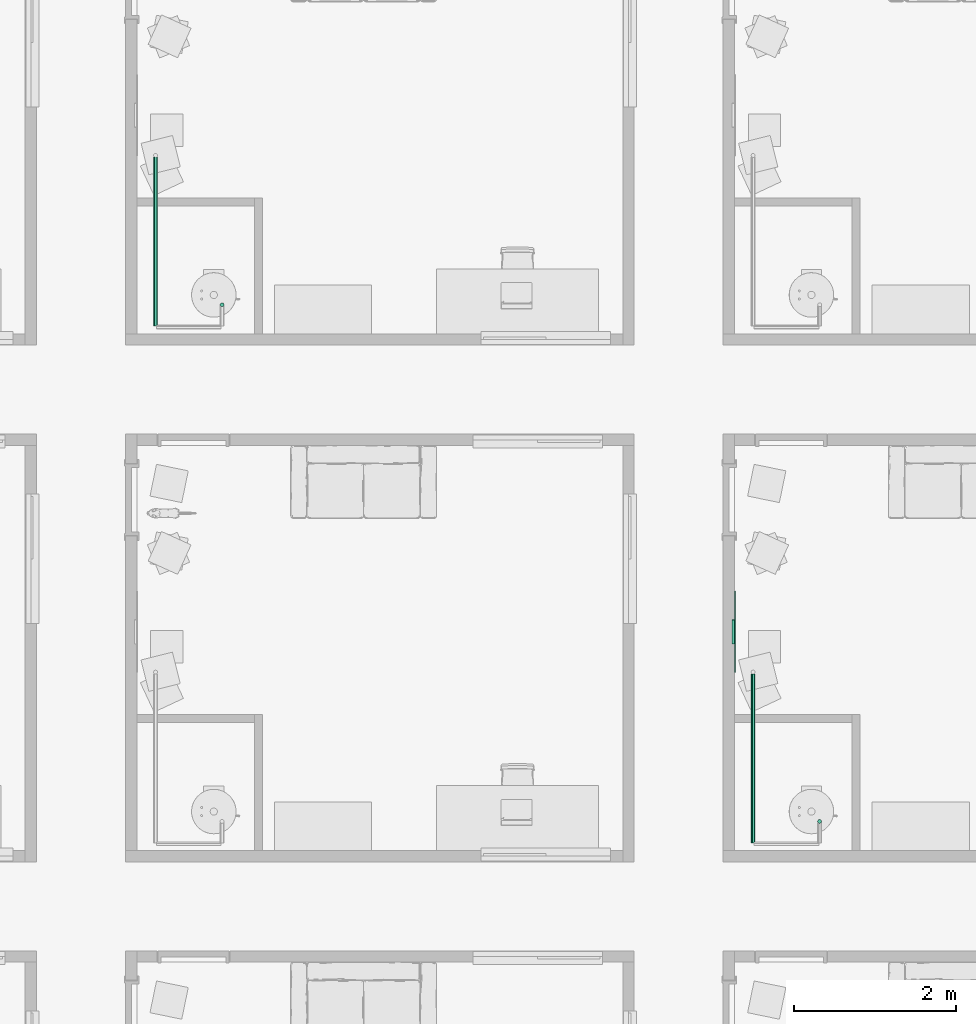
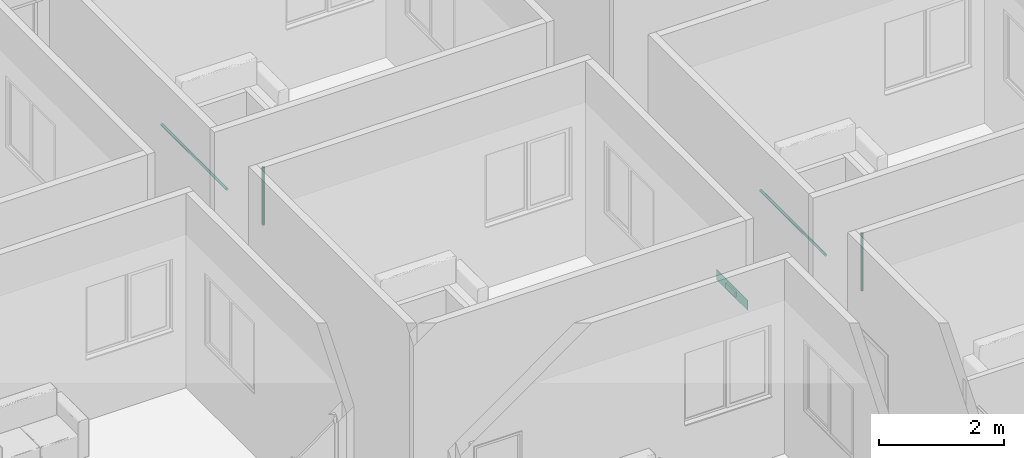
# One storey, part 38 of 71: 4 pipe segments, 1 air terminal.
"""IFC4 building model written with IfcOpenShell, lengths in centimetres."""

from ifc_helpers import new_model, entity, si_unit, converted_unit, derived_unit, direction, frame, origin, place, context, subcontext, project, spatial, arc, indexed_curve, outline, extrude, source, transform, mapped, material, constituent, constituent_set, type_object, type_shapes, element, save


model = new_model("IFC4")

# Units and contexts
model_context = context("Model", 3, precision=0.001, world=origin(), true_north=direction((6.123233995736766e-17, 1.0)))
body_context = subcontext(model_context, "Body", "Model", "MODEL_VIEW")
ifc_project = project(units=[si_unit("LENGTHUNIT", "METRE", prefix="CENTI"), si_unit("AREAUNIT", "SQUARE_METRE"), si_unit("VOLUMEUNIT", "CUBIC_METRE"), derived_unit("THERMALTRANSMITTANCEUNIT", [(si_unit("MASSUNIT", "GRAM", prefix="KILO"), 1), (si_unit("THERMODYNAMICTEMPERATUREUNIT", "KELVIN"), -1), (si_unit("TIMEUNIT", "SECOND"), -3)]), converted_unit("PLANEANGLEUNIT", "DEGREE", entity("IfcPlaneAngleMeasure", 0.017453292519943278), si_unit("PLANEANGLEUNIT", "RADIAN"), dimensions=[0, 0, 0, 0, 0, 0, 0]), derived_unit("MASSDENSITYUNIT", [(si_unit("MASSUNIT", "GRAM", prefix="KILO"), 1), (si_unit("LENGTHUNIT", "METRE"), -3)]), derived_unit("VAPORPERMEABILITYUNIT", [(si_unit("LENGTHUNIT", "METRE"), -1), (si_unit("TIMEUNIT", "SECOND"), 1)]), derived_unit("USERDEFINED", [(si_unit("MASSUNIT", "GRAM", prefix="KILO"), 1), (si_unit("TIMEUNIT", "SECOND"), -3), (si_unit("LENGTHUNIT", "METRE"), 3), (si_unit("ELECTRICCURRENTUNIT", "AMPERE"), -2)]), derived_unit("SPECIFICHEATCAPACITYUNIT", [(si_unit("THERMODYNAMICTEMPERATUREUNIT", "KELVIN"), -1), (si_unit("LENGTHUNIT", "METRE"), 2), (si_unit("TIMEUNIT", "SECOND"), -2)]), derived_unit("THERMALCONDUCTANCEUNIT", [(si_unit("MASSUNIT", "GRAM", prefix="KILO"), 1), (si_unit("THERMODYNAMICTEMPERATUREUNIT", "KELVIN"), -1), (si_unit("TIMEUNIT", "SECOND"), -3), (si_unit("LENGTHUNIT", "METRE"), 1)]), si_unit("PRESSUREUNIT", "PASCAL"), derived_unit("MODULUSOFELASTICITYUNIT", [(si_unit("MASSUNIT", "GRAM", prefix="KILO"), 1), (si_unit("LENGTHUNIT", "METRE"), -1), (si_unit("TIMEUNIT", "SECOND"), -2)]), derived_unit("THERMALEXPANSIONCOEFFICIENTUNIT", [(si_unit("THERMODYNAMICTEMPERATUREUNIT", "KELVIN"), -1)])], contexts=[model_context])

# Site, building, storey, space
site_placement = place(None, origin())
site = spatial("IfcSite", under=ifc_project, at=site_placement, Name="Default", CompositionType="ELEMENT")
building_placement = place(site_placement, origin())
building = spatial("IfcBuilding", under=site, at=building_placement, Name="IDS Escape Game Building", CompositionType="ELEMENT")
storey_placement = place(building_placement, frame((0.0, 0.0, 1200.0)))
storey = spatial("IfcBuildingStorey", under=building, at=storey_placement, Name="03_Third Floor", CompositionType="ELEMENT", Elevation=1200.0)
space_placement = place(storey_placement, origin())
space = spatial("IfcSpace", under=storey, at=space_placement, Name="133", CompositionType="ELEMENT", PredefinedType="NOTDEFINED")

# Air terminal
ifc_material_1 = material(Name="TB_LVC_referentievlak_00_gen_BERSnl", Category="BE Default")
ifc_constituent_1 = constituent(ifc_material_1, Name="TB_LVC_referentievlak_00_gen_BERSnl", Category="BE Default", fraction=0.00014157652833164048)
ifc_material_2 = material(Name="ARC_FME.h2_staal_00_gen_BERSnl", Category="h - metaal")
ifc_constituent_2 = constituent(ifc_material_2, Name="ARC_FME.h2_staal_00_gen_BERSnl", Category="h - metaal", fraction=0.9998584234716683)
ifc_constituent_set_1 = constituent_set(constituents=[ifc_constituent_1, ifc_constituent_2])
ifc_constituent_3 = constituent(ifc_material_1, Name="BE Referentievlak", Category="BE Default", fraction=0.00014157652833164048)
ifc_constituent_4 = constituent(ifc_material_2, Name="Terminals", Category="h - metaal", fraction=0.9998584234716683)
ifc_constituent_set_2 = constituent_set(constituents=[ifc_constituent_3, ifc_constituent_4])
air_terminal_type = type_object("IfcAirTerminalType", Name="TB_57_AIR_FB_aanzuigrooster - 1 rechthoekige aansluiting - calculated flow_gen_BERSnl:Air Terminal - Exhaust", PredefinedType="GRILLE", material=ifc_constituent_set_2)
shared_shape = source(origin(), body_context, "Body", "SweptSolid", [
    extrude(outline(indexed_curve([(-0.5, -2.0290176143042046e-15), (6.8507733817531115e-16, -0.5000000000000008), (0.5, 2.0290176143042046e-15), (-5.361679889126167e-16, 0.49999999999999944)], segments=[arc(1, 2, 3), arc(3, 4, 1)], self_intersect=False)), frame((0.0, 0.0, 0.0), z_axis=(1.7453292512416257e-05, 0.0, 1.0), x_axis=(0.0, 1.0, 0.0)), (0.0, 0.0, 1.0), 0.09999999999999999),
    extrude(outline(indexed_curve([(-14.900000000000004, -4.9), (14.900000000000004, -4.9), (14.900000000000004, 4.9), (-14.900000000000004, 4.9), (-14.900000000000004, -4.9)], self_intersect=False)), frame((-4.886921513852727e-05, 0.0, -2.7999999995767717)), (0.0, 0.0, 1.0), 2.7999999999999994),
    extrude(outline(indexed_curve([(-50.0, -10.0), (50.0, -10.0), (50.0, 10.0), (-50.0, 10.0), (-50.0, -10.0)], self_intersect=False)), frame((0.0, 0.0, 0.0), z_axis=(0.0, 0.0, 1.0), x_axis=(-1.0, 0.0, 0.0)), (0.0, 0.0, 1.0), 0.6999999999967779),
])
type_shapes(air_terminal_type, [shared_shape])
air_terminal_placement = place(space_placement, frame((4435.0, 2197.0, 24.0), z_axis=(1.0, 0.0, 0.0), x_axis=(0.0, 1.0, 0.0)))
element("IfcAirTerminal", 1, at=air_terminal_placement, inside=space, type_object=air_terminal_type, material=ifc_constituent_set_1, Name="TB_57_AIR_FB_aanzuigrooster - 1 rechthoekige aansluiting - calculated flow_gen_BERSnl:Air Terminal - Exhaust", ObjectType="TB_57_AIR_FB_aanzuigrooster - 1 rechthoekige aansluiting - calculated flow_gen_BERSnl:Air Terminal - Exhaust", PredefinedType="GRILLE", context=body_context, shape_type="MappedRepresentation", body=[
    mapped(shared_shape, transform((0.0, 0.0, 0.0), scale=1.0)),
])

# Pipe segments
pipe_segment_type = type_object("IfcPipeSegmentType", Name="Pipe Types:Piping Aluminum", PredefinedType="NOTDEFINED")
pipe_segment_1_placement = place(storey_placement, origin())
element("IfcPipeSegment", 2, at=pipe_segment_1_placement, inside=storey, type_object=pipe_segment_type, Name="Pipe Types:Piping Aluminum", ObjectType="Pipe Types:Piping Aluminum", PredefinedType="NOTDEFINED", context=body_context, shape_type="SweptSolid", body=[
    extrude(outline(indexed_curve([(2.4130000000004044, -4.331468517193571e-13), (1.7062486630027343, 1.7062486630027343), (0.0, 2.412999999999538), (-1.7062486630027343, 1.7062486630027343), (-2.4130000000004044, -4.331468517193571e-13), (-1.7062486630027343, -1.7062486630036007), (0.0, -2.4130000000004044), (1.7062486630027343, -1.7062486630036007)], segments=[arc(1, 2, 3), arc(3, 4, 5), arc(5, 6, 7), arc(7, 8, 1)], self_intersect=False)), frame((4540.150000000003, 1962.9000000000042, 128.0), z_axis=(0.0, 0.0, 1.0), x_axis=(-1.0, 0.0, 0.0)), (0.0, 0.0, 1.0), 112.90000000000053),
])
pipe_segment_2_placement = place(storey_placement, origin())
element("IfcPipeSegment", 3, at=pipe_segment_2_placement, inside=storey, type_object=pipe_segment_type, Name="Pipe Types:Piping Aluminum", ObjectType="Pipe Types:Piping Aluminum", PredefinedType="NOTDEFINED", context=body_context, shape_type="SweptSolid", body=[
    extrude(outline(indexed_curve([(2.4130000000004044, 0.0), (1.7062486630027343, 1.7062486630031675), (0.0, 2.412999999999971), (-1.7062486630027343, 1.7062486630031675), (-2.4130000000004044, 0.0), (-1.7062486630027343, -1.7062486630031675), (0.0, -2.412999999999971), (1.7062486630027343, -1.7062486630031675)], segments=[arc(1, 2, 3), arc(3, 4, 5), arc(5, 6, 7), arc(7, 8, 1)], self_intersect=False)), frame((4458.046716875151, 1936.364827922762, 242.0), z_axis=(0.0, 1.0, 0.0), x_axis=(1.0, 0.0, 0.0)), (0.0, 0.0, 1.0), 208.80000000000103),
])
pipe_segment_3_placement = place(storey_placement, origin())
element("IfcPipeSegment", 4, at=pipe_segment_3_placement, inside=storey, type_object=pipe_segment_type, Name="Pipe Types:Piping Aluminum", ObjectType="Pipe Types:Piping Aluminum", PredefinedType="NOTDEFINED", context=body_context, shape_type="SweptSolid", body=[
    extrude(outline(indexed_curve([(2.412999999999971, 0.0), (1.7062486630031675, 1.7062486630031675), (0.0, 2.412999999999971), (-1.7062486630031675, 1.7062486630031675), (-2.412999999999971, 0.0), (-1.7062486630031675, -1.7062486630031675), (0.0, -2.412999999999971), (1.7062486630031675, -1.7062486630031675)], segments=[arc(1, 2, 3), arc(3, 4, 5), arc(5, 6, 7), arc(7, 8, 1)], self_intersect=False)), frame((3802.150000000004, 2600.9000000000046, 128.0), z_axis=(0.0, 0.0, 1.0), x_axis=(-1.0, 0.0, 0.0)), (0.0, 0.0, 1.0), 112.90000000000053),
])
pipe_segment_4_placement = place(storey_placement, origin())
element("IfcPipeSegment", 5, at=pipe_segment_4_placement, inside=storey, type_object=pipe_segment_type, Name="Pipe Types:Piping Aluminum", ObjectType="Pipe Types:Piping Aluminum", PredefinedType="NOTDEFINED", context=body_context, shape_type="SweptSolid", body=[
    extrude(outline(indexed_curve([(2.412999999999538, 0.0), (1.7062486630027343, 1.7062486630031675), (-4.331468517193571e-13, 2.412999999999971), (-1.7062486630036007, 1.7062486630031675), (-2.4130000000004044, 0.0), (-1.7062486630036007, -1.7062486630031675), (-4.331468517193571e-13, -2.412999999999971), (1.7062486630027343, -1.7062486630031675)], segments=[arc(1, 2, 3), arc(3, 4, 5), arc(5, 6, 7), arc(7, 8, 1)], self_intersect=False)), frame((3720.0467168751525, 2574.3648279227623, 242.0), z_axis=(0.0, 1.0, 0.0), x_axis=(1.0, 0.0, 0.0)), (0.0, 0.0, 1.0), 208.80000000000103),
])

save(model, "model.ifc")
